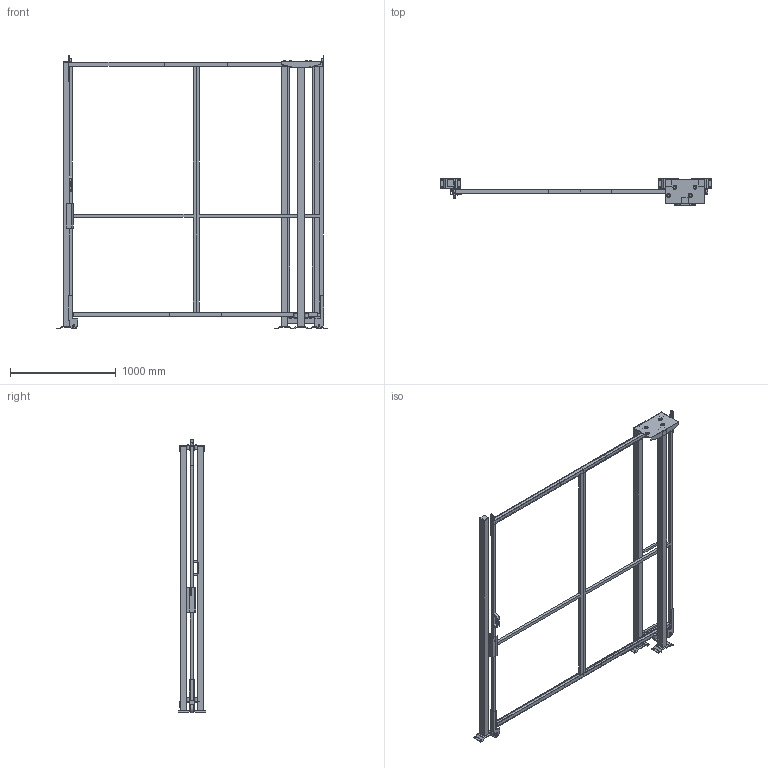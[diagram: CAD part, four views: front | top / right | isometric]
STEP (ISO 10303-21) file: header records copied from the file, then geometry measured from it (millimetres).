
FILE_DESCRIPTION(/* description */ (''),/* implementation_level */ '2;1');
FILE_NAME(/* name */ 'C:\SafeGuarding\ELABORATI\KLADKA_2025-03-20-11-57-25.stp',/* time_stamp */ '2025-03-20T11:57:26+01:00',/* author */ ('admin'),/* organization */ (''),/* preprocessor_version */ 'ST-DEVELOPER v18.1',/* originating_system */ 'AutoCAD Mechanical',/* authorisation */ '');
FILE_SCHEMA (('AUTOMOTIVE_DESIGN { 1 0 10303 214 3 1 1 }'));
Length unit declared in the file: millimetre
Products named in the file (4): Product; VFPA.REPE30.12002400; VFPA.REPE2002502400; P_VFMA.V360SDU.2520
Assembly tree (7 placements, depth 2):
  Product
    VFPA.REPE30.12002400  x2
    VFPA.REPE2002502400
    P_VFMA.V360SDU.2520  x4
Bounding box: 2561.97 x 264.14 x 2590.02 mm (x, y, z)
Volume: 56582054.2 mm3; surface area: 7189203.9 mm2
Topology: 48 solids, 59 shells, 501 faces, 1643 edges, 1621 vertices
Faces by surface type: plane 449, cylinder 50, sphere 2
Full cylindrical faces by diameter (mm): 9 x4, 11 x16, 13 x4, 30 x6, 36 x8, 80 x2
Entity records: 13849 total; most frequent: CARTESIAN_POINT 2900, DIRECTION 2109, ORIENTED_EDGE 1962, EDGE_CURVE 1030, LINE 1005, VECTOR 1005, VERTEX_POINT 726, AXIS2_PLACEMENT_3D 552
